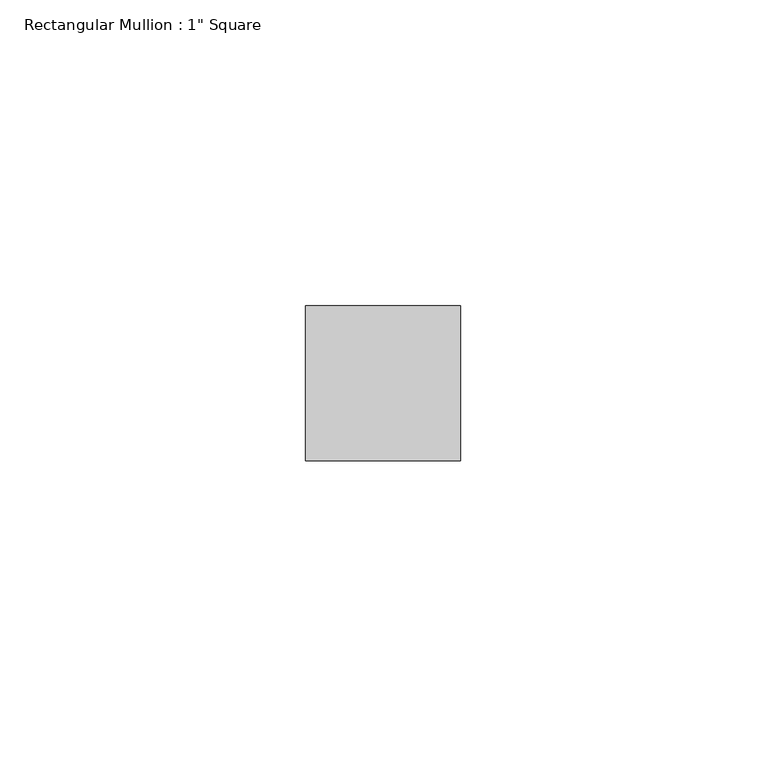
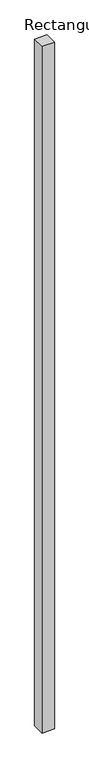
"""IFC4 building model written with IfcOpenShell, lengths in millimetres: member geometry."""

import ifcopenshell
import ifcopenshell.guid

model = None  # the IFC model being written
_history = None  # IfcOwnerHistory: only IFC2X3 demands one
_inside = {}  # id of a spatial element -> (the spatial element, [elements in it])
_under = {}  # id of a project, library or spatial element -> (it, [spatial elements below it])
_declared = {}  # id of a project -> (the project, [libraries it declares])
_typed = {}  # id of a type object -> (the type object, [elements of that type])
_made_of = {}  # id of a material, layer set ... -> (it, [elements and type objects made of it])


def new_model(schema):
    """Start an empty IFC model of exactly this schema.

    Asked for "IFC4X3", IfcOpenShell would pick the latest addendum, in which some entities
    have other attributes; the version numbers below select the first issue.
    IFC2X3 requires an IfcOwnerHistory on every rooted entity: one is made here for all.
    """
    global model, _history
    if schema == "IFC4X3":
        model = ifcopenshell.file(schema_version=(4, 3, 0, 0))
    else:
        model = ifcopenshell.file(schema=schema)
    _inside.clear()
    _under.clear()
    _declared.clear()
    _typed.clear()
    _made_of.clear()
    _history = None
    if model.schema == "IFC2X3":
        org = make("IfcOrganization", Name="unknown")
        user = make(
            "IfcPersonAndOrganization",
            ThePerson=make("IfcPerson", FamilyName="unknown"),
            TheOrganization=org,
        )
        app = make(
            "IfcApplication",
            ApplicationDeveloper=org,
            Version="unknown",
            ApplicationFullName="unknown",
            ApplicationIdentifier="unknown",
        )
        _history = make(
            "IfcOwnerHistory",
            OwningUser=user,
            OwningApplication=app,
            ChangeAction="ADDED",
            CreationDate=0,
        )
    return model


def make(cls, **values):
    """One entity of the class cls with the attributes given. An attribute that is None is left unset."""
    return model.create_entity(
        cls, **{name: value for name, value in values.items() if value is not None}
    )


def rooted(cls, **values):
    """An entity with a GlobalId (a new one), such as an element, a storey or a relation."""
    return make(cls, GlobalId=ifcopenshell.guid.new(), OwnerHistory=_history, **values)


def si_unit(unit_type, name, prefix=None):
    """IfcSIUnit, for example si_unit("LENGTHUNIT", "METRE", prefix="MILLI")."""
    return make("IfcSIUnit", UnitType=unit_type, Prefix=prefix, Name=name)


def assignment(units):
    """IfcUnitAssignment: the units of a project."""
    return None if units is None else make("IfcUnitAssignment", Units=units)


def point(xyz):
    """IfcCartesianPoint."""
    return None if xyz is None else make("IfcCartesianPoint", Coordinates=xyz)


def direction(xyz):
    """IfcDirection."""
    return None if xyz is None else make("IfcDirection", DirectionRatios=xyz)


def frame(location, z_axis=None, x_axis=None):
    """IfcAxis2Placement3D, a coordinate frame: its origin and axes. An axis left out is left unset."""
    return make(
        "IfcAxis2Placement3D",
        Location=point(location),
        Axis=direction(z_axis),
        RefDirection=direction(x_axis),
    )


def origin():
    """The frame at (0, 0, 0) with its axes left unset."""
    return frame((0.0, 0.0, 0.0))


def place(relative_to, where):
    """IfcLocalPlacement: puts the frame where relative to a parent placement (None: the world)."""
    return make(
        "IfcLocalPlacement", PlacementRelTo=relative_to, RelativePlacement=where
    )


def context(
    kind, dimensions, precision=None, world=None, true_north=None, identifier=None
):
    """IfcGeometricRepresentationContext, for example the 3D "Model" context."""
    return make(
        "IfcGeometricRepresentationContext",
        ContextIdentifier=identifier,
        ContextType=kind,
        CoordinateSpaceDimension=dimensions,
        Precision=precision,
        WorldCoordinateSystem=world,
        TrueNorth=true_north,
    )


def project(units=None, contexts=None):
    """IfcProject with its units and contexts."""
    return rooted(
        "IfcProject",
        Name="project",
        RepresentationContexts=contexts,
        UnitsInContext=assignment(units),
    )


def spatial(cls, under=None, at=None, **own):
    """A site, building, storey or space (cls), placed at a placement, below another one or the project."""
    s = rooted(cls, ObjectPlacement=at, **own)
    if under is not None:
        _under.setdefault(under.id(), (under, []))[1].append(s)
    return s


def polyline(points):
    """IfcPolyline through the points."""
    return make("IfcPolyline", Points=[point(p) for p in points])


def outline(outer, holes=None, kind="AREA"):
    """IfcArbitraryClosedProfileDef: a profile drawn as a closed curve; with holes, ...WithVoids."""
    if holes is None:
        return make("IfcArbitraryClosedProfileDef", ProfileType=kind, OuterCurve=outer)
    return make(
        "IfcArbitraryProfileDefWithVoids",
        ProfileType=kind,
        OuterCurve=outer,
        InnerCurves=holes,
    )


def extrude(swept, where, along, depth):
    """IfcExtrudedAreaSolid: the profile swept, set in the frame where, extruded along a direction by depth."""
    return make(
        "IfcExtrudedAreaSolid",
        SweptArea=swept,
        Position=where,
        ExtrudedDirection=direction(along),
        Depth=depth,
    )


def shape(context_of_items, identifier, shape_type, items):
    """IfcShapeRepresentation: the items that make up one representation, for example the "Body"."""
    return make(
        "IfcShapeRepresentation",
        ContextOfItems=context_of_items,
        RepresentationIdentifier=identifier,
        RepresentationType=shape_type,
        Items=items,
    )


def source(mapping_origin, context_of_items, identifier, shape_type, items):
    """IfcRepresentationMap: a shape defined once, which mapped items show again and again."""
    return make(
        "IfcRepresentationMap",
        MappingOrigin=mapping_origin,
        MappedRepresentation=shape(context_of_items, identifier, shape_type, items),
    )


def transform(
    local_origin,
    x_axis=None,
    y_axis=None,
    z_axis=None,
    scale=None,
    scale2=None,
    scale3=None,
    uniform=True,
):
    """IfcCartesianTransformationOperator3D, or its non-uniform kind. x_axis, y_axis, z_axis: its Axis1, 2, 3."""
    if uniform:
        return make(
            "IfcCartesianTransformationOperator3D",
            Axis1=direction(x_axis),
            Axis2=direction(y_axis),
            LocalOrigin=point(local_origin),
            Scale=scale,
            Axis3=direction(z_axis),
        )
    return make(
        "IfcCartesianTransformationOperator3DnonUniform",
        Axis1=direction(x_axis),
        Axis2=direction(y_axis),
        LocalOrigin=point(local_origin),
        Scale=scale,
        Axis3=direction(z_axis),
        Scale2=scale2,
        Scale3=scale3,
    )


def mapped(mapping_source, mapping_target):
    """IfcMappedItem: shows the shape of a source again, moved by a transform."""
    return make(
        "IfcMappedItem", MappingSource=mapping_source, MappingTarget=mapping_target
    )


def made_of(thing, what):
    """Note that an element or type object is made of a material, layer set ...; save() writes the relation."""
    if what is not None:
        _made_of.setdefault(what.id(), (what, []))[1].append(thing)
    return thing


def element(
    cls,
    number,
    at=None,
    inside=None,
    cuts=None,
    type_object=None,
    material=None,
    context=None,
    identifier="Body",
    shape_type=None,
    held_by="IfcProductDefinitionShape",
    body=None,
    shapes=None,
    **own,
):
    """One element of the class cls, such as IfcWall. Its Tag is "e" and its number.

    at: its placement. inside: the storey or other place that contains it. cuts: it is an
    opening in that element (IfcRelVoidsElement). A single representation is given by context,
    identifier, shape_type and body (its items); several are given by shapes. held_by: the class
    of the entity that holds the representations. save() writes the other relations.
    """
    e = rooted(cls, Tag="e%d" % number, ObjectPlacement=at, **own)
    if body is not None:
        shapes = [shape(context, identifier, shape_type, body)]
    if shapes is not None:
        e.Representation = make(held_by, Representations=shapes)
    if inside is not None:
        _inside.setdefault(inside.id(), (inside, []))[1].append(e)
    if cuts is not None:
        rooted(
            "IfcRelVoidsElement", RelatingBuildingElement=cuts, RelatedOpeningElement=e
        )
    if type_object is not None:
        _typed.setdefault(type_object.id(), (type_object, []))[1].append(e)
    return made_of(e, material)


def aggregate(whole, parts):
    """IfcRelAggregates: a whole, such as a stair, and the parts it consists of."""
    return rooted("IfcRelAggregates", RelatingObject=whole, RelatedObjects=parts)


def save(model, path):
    """Write the relations noted so far, then the file.

    IfcRelAggregates (storeys below a building ...), IfcRelContainedInSpatialStructure (elements
    in a storey), IfcRelDefinesByType, IfcRelAssociatesMaterial and IfcRelDeclares: one each for
    every whole, place, type object, material and project.
    """
    for whole, parts in _under.values():
        aggregate(whole, parts)
    for where, things in _inside.values():
        rooted(
            "IfcRelContainedInSpatialStructure",
            RelatedElements=things,
            RelatingStructure=where,
        )
    for kind, things in _typed.values():
        rooted("IfcRelDefinesByType", RelatedObjects=things, RelatingType=kind)
    for what, things in _made_of.values():
        rooted("IfcRelAssociatesMaterial", RelatedObjects=things, RelatingMaterial=what)
    for by, libraries in _declared.values():
        rooted("IfcRelDeclares", RelatingContext=by, RelatedDefinitions=libraries)
    model.write(path)


def member_515abc7c(model_context):
    return source(origin(), model_context, "Body", "SweptSolid", [
        extrude(outline(polyline([(12.7, 12.7), (12.7, -12.7), (-12.7, -12.7), (-12.7, 12.7), (12.7, 12.7)])), frame((0.0, 0.0, -1478.6744436), z_axis=(0.0, 0.0, 1.0), x_axis=(1.0, 0.0, 0.0)), (0.0, 0.0, 1.0), 1478.6744436),
    ])


if __name__ == "__main__":
    model = new_model("IFC4")
    model_context = context("Model", 3, world=origin())
    ifc_project = project(units=[si_unit("LENGTHUNIT", "METRE", prefix="MILLI")], contexts=[model_context])
    site = spatial("IfcSite", under=ifc_project)
    building = spatial("IfcBuilding", under=site)
    placement = place(None, origin())
    member_shape = member_515abc7c(model_context)
    element("IfcMember", 1, ObjectType="Rectangular Mullion : 1\" Square", at=placement, inside=building, context=model_context, shape_type="MappedRepresentation", body=[
        mapped(member_shape, transform((0.0, 0.0, 0.0), x_axis=(1.0, 0.0, 0.0), y_axis=(0.0, 1.0, 0.0), z_axis=(0.0, 0.0, 1.0))),
    ])
    save(model, "model.ifc")
